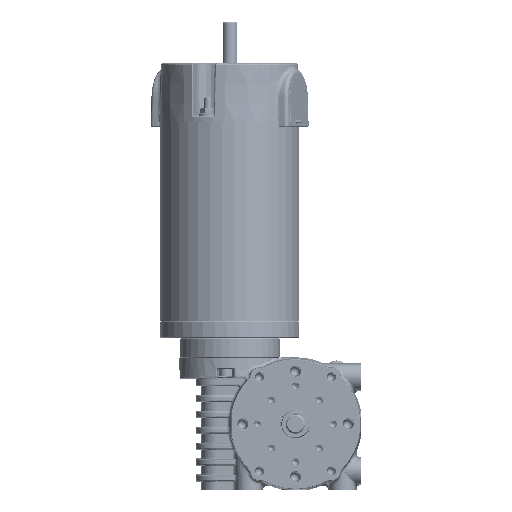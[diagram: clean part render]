
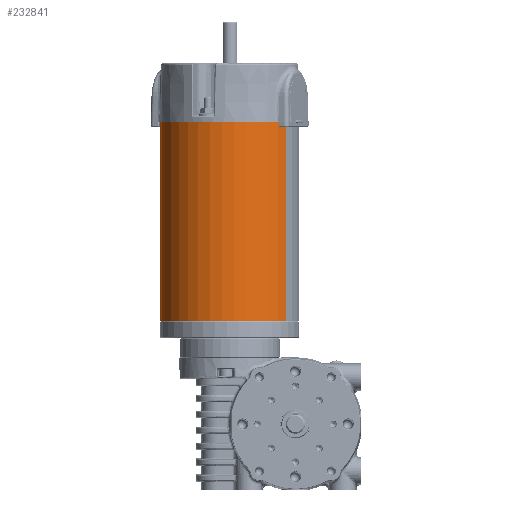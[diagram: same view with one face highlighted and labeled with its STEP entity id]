
A CAD part, left-side view. The second image highlights one B-rep face of the part: STEP entity #232841.
In plain terms, the highlighted cylindrical face has radius 37.15 mm (diameter 74.3 mm), a partial arc.
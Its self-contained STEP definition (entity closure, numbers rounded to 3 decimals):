
#3780 = CARTESIAN_POINT ( 'NONE',  ( -16.926, -15.079, 50.358 ) ) ;
#9824 = ORIENTED_EDGE ( 'NONE', *, *, #156240, .T. ) ;
#11199 = CARTESIAN_POINT ( 'NONE',  ( 27.455, 44.51, 50.358 ) ) ;
#12241 = CARTESIAN_POINT ( 'NONE',  ( 27.455, 44.51, 50.358 ) ) ;
#31141 = VERTEX_POINT ( 'NONE', #3780 ) ;
#43279 = AXIS2_PLACEMENT_3D ( 'NONE', #91623, #108394, #107217 ) ;
#48047 = LINE ( 'NONE', #12241, #221653 ) ;
#53120 = CARTESIAN_POINT ( 'NONE',  ( 27.455, 44.51, 156.358 ) ) ;
#55677 = VERTEX_POINT ( 'NONE', #98088 ) ;
#67280 = EDGE_CURVE ( 'NONE', #31141, #126765, #92836, .T. ) ;
#71482 = VECTOR ( 'NONE', #96240, 1000. ) ;
#74991 = ORIENTED_EDGE ( 'NONE', *, *, #158272, .F. ) ;
#83854 = DIRECTION ( 'NONE',  ( 0., 0., 1. ) ) ;
#88278 = VERTEX_POINT ( 'NONE', #53120 ) ;
#91623 = CARTESIAN_POINT ( 'NONE',  ( 5.264, 14.716, 50.358 ) ) ;
#92836 = CIRCLE ( 'NONE', #43279, 37.15 ) ;
#96240 = DIRECTION ( 'NONE',  ( 0., 0., 1. ) ) ;
#96616 = DIRECTION ( 'NONE',  ( 0.597, 0.802, 0. ) ) ;
#98088 = CARTESIAN_POINT ( 'NONE',  ( -16.926, -15.079, 156.358 ) ) ;
#100948 = LINE ( 'NONE', #204800, #71482 ) ;
#104631 = ORIENTED_EDGE ( 'NONE', *, *, #144695, .T. ) ;
#107217 = DIRECTION ( 'NONE',  ( 0.597, 0.802, 0. ) ) ;
#108394 = DIRECTION ( 'NONE',  ( 0., 0., -1. ) ) ;
#110280 = ORIENTED_EDGE ( 'NONE', *, *, #67280, .F. ) ;
#116790 = CYLINDRICAL_SURFACE ( 'NONE', #189112, 37.15 ) ;
#117963 = FACE_OUTER_BOUND ( 'NONE', #120212, .T. ) ;
#120212 = EDGE_LOOP ( 'NONE', ( #74991, #110280, #104631, #9824 ) ) ;
#126765 = VERTEX_POINT ( 'NONE', #11199 ) ;
#144695 = EDGE_CURVE ( 'NONE', #31141, #55677, #100948, .T. ) ;
#154815 = CARTESIAN_POINT ( 'NONE',  ( 5.264, 14.716, 50.358 ) ) ;
#156240 = EDGE_CURVE ( 'NONE', #55677, #88278, #208864, .T. ) ;
#158272 = EDGE_CURVE ( 'NONE', #126765, #88278, #48047, .T. ) ;
#183691 = DIRECTION ( 'NONE',  ( 0., 0., -1. ) ) ;
#189112 = AXIS2_PLACEMENT_3D ( 'NONE', #154815, #227717, #209784 ) ;
#189682 = AXIS2_PLACEMENT_3D ( 'NONE', #203998, #183691, #96616 ) ;
#203998 = CARTESIAN_POINT ( 'NONE',  ( 5.264, 14.716, 156.358 ) ) ;
#204800 = CARTESIAN_POINT ( 'NONE',  ( -16.926, -15.079, 50.358 ) ) ;
#208864 = CIRCLE ( 'NONE', #189682, 37.15 ) ;
#209784 = DIRECTION ( 'NONE',  ( -0.597, -0.802, 0. ) ) ;
#221653 = VECTOR ( 'NONE', #83854, 1000. ) ;
#227717 = DIRECTION ( 'NONE',  ( 0., 0., 1. ) ) ;
#232841 = ADVANCED_FACE ( 'NONE', ( #117963 ), #116790, .T. ) ;
